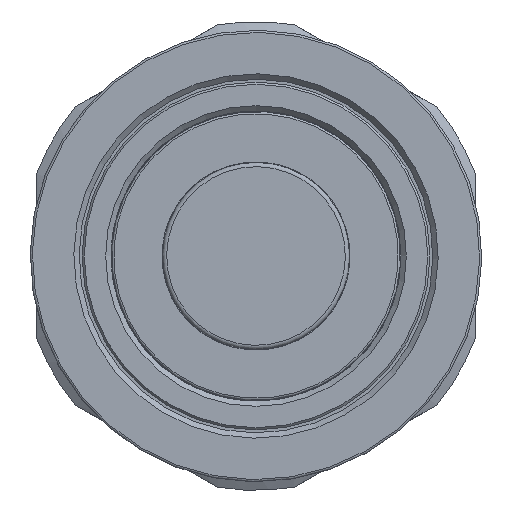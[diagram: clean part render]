
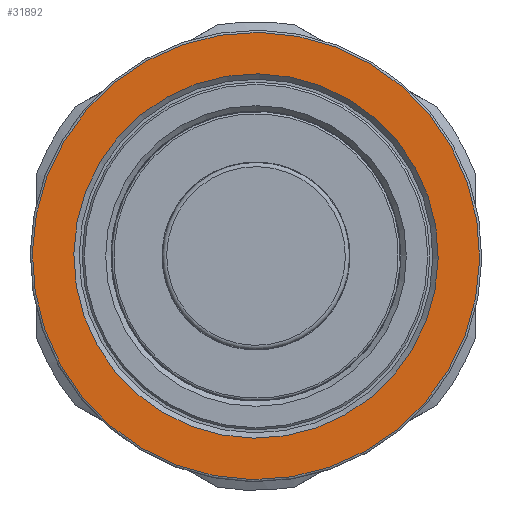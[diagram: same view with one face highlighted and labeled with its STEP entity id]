
A CAD part, front view. The second image highlights one B-rep face of the part: STEP entity #31892.
In plain terms, the highlighted planar face has unit normal (0, -1, 0).
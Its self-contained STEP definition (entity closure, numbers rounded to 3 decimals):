
#2867=FACE_BOUND('',#10324,.T.);
#6973=PLANE('',#33092);
#8607=FACE_OUTER_BOUND('',#10323,.T.);
#10323=EDGE_LOOP('',(#30126));
#10324=EDGE_LOOP('',(#30127));
#10876=CIRCLE('',#33088,17.025);
#10879=CIRCLE('',#33093,20.9);
#16167=VERTEX_POINT('',#70647);
#16170=VERTEX_POINT('',#70657);
#20818=EDGE_CURVE('',#16167,#16167,#10876,.T.);
#20823=EDGE_CURVE('',#16170,#16170,#10879,.T.);
#30126=ORIENTED_EDGE('',*,*,#20823,.F.);
#30127=ORIENTED_EDGE('',*,*,#20818,.F.);
#31892=ADVANCED_FACE('',(#8607,#2867),#6973,.T.);
#33088=AXIS2_PLACEMENT_3D('',#70648,#37278,#37279);
#33092=AXIS2_PLACEMENT_3D('',#70656,#37288,#37289);
#33093=AXIS2_PLACEMENT_3D('',#70658,#37290,#37291);
#37278=DIRECTION('center_axis',(0.,-1.,0.));
#37279=DIRECTION('ref_axis',(1.,0.,-0.014));
#37288=DIRECTION('center_axis',(0.,-1.,0.));
#37289=DIRECTION('ref_axis',(0.014,0.,1.));
#37290=DIRECTION('center_axis',(0.,1.,0.));
#37291=DIRECTION('ref_axis',(1.,0.,-0.014));
#70647=CARTESIAN_POINT('',(-17.023,-25.185,0.24));
#70648=CARTESIAN_POINT('Origin',(0.,-25.185,
0.));
#70656=CARTESIAN_POINT('Origin',(-21.098,-25.185,0.298));
#70657=CARTESIAN_POINT('',(0.295,-25.185,20.898));
#70658=CARTESIAN_POINT('Origin',(0.,-25.185,
0.));
